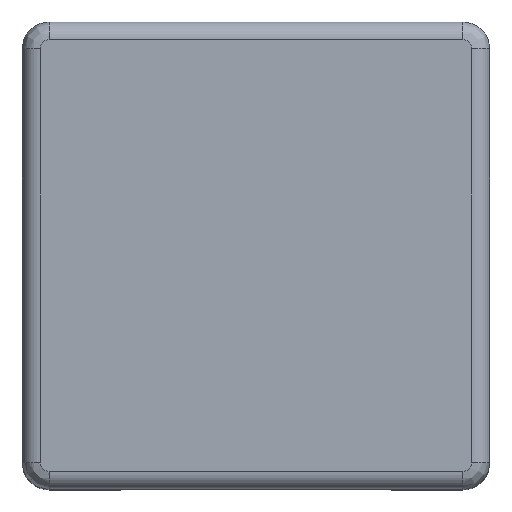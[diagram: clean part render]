
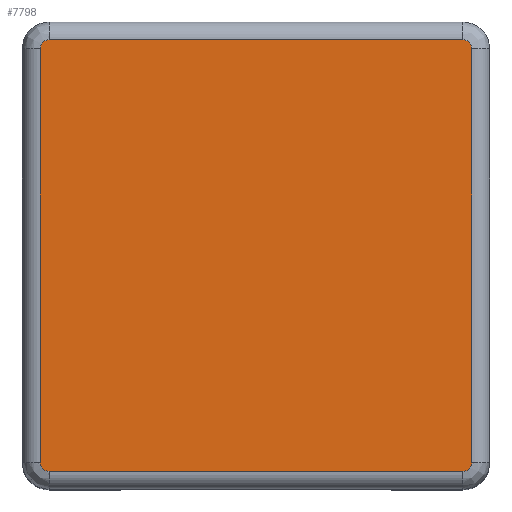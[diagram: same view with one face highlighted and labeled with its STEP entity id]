
A CAD part, top view. The second image highlights one B-rep face of the part: STEP entity #7798.
In plain terms, the highlighted planar face has unit normal (0, 0, 1).
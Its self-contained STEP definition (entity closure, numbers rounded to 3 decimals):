
#7771 = VERTEX_POINT('',#7772);
#7772 = CARTESIAN_POINT('',(-12.1,-11.6,23.7));
#7779 = EDGE_CURVE('',#7780,#7771,#7782,.T.);
#7780 = VERTEX_POINT('',#7781);
#7781 = CARTESIAN_POINT('',(-12.1,11.6,23.7));
#7782 = LINE('',#7783,#7784);
#7783 = CARTESIAN_POINT('',(-12.1,13.1,23.7));
#7784 = VECTOR('',#7785,1.);
#7785 = DIRECTION('',(0.,-1.,0.));
#7798 = ADVANCED_FACE('',(#7799),#7860,.F.);
#7799 = FACE_BOUND('',#7800,.T.);
#7800 = EDGE_LOOP('',(#7801,#7810,#7818,#7827,#7835,#7844,#7852,#7859));
#7801 = ORIENTED_EDGE('',*,*,#7802,.F.);
#7802 = EDGE_CURVE('',#7803,#7771,#7805,.T.);
#7803 = VERTEX_POINT('',#7804);
#7804 = CARTESIAN_POINT('',(-11.6,-12.1,23.7));
#7805 = CIRCLE('',#7806,0.5);
#7806 = AXIS2_PLACEMENT_3D('',#7807,#7808,#7809);
#7807 = CARTESIAN_POINT('',(-11.6,-11.6,23.7));
#7808 = DIRECTION('',(0.,0.,-1.));
#7809 = DIRECTION('',(0.,1.,0.));
#7810 = ORIENTED_EDGE('',*,*,#7811,.T.);
#7811 = EDGE_CURVE('',#7803,#7812,#7814,.T.);
#7812 = VERTEX_POINT('',#7813);
#7813 = CARTESIAN_POINT('',(11.6,-12.1,23.7));
#7814 = LINE('',#7815,#7816);
#7815 = CARTESIAN_POINT('',(-13.1,-12.1,23.7));
#7816 = VECTOR('',#7817,1.);
#7817 = DIRECTION('',(1.,0.,0.));
#7818 = ORIENTED_EDGE('',*,*,#7819,.F.);
#7819 = EDGE_CURVE('',#7820,#7812,#7822,.T.);
#7820 = VERTEX_POINT('',#7821);
#7821 = CARTESIAN_POINT('',(12.1,-11.6,23.7));
#7822 = CIRCLE('',#7823,0.5);
#7823 = AXIS2_PLACEMENT_3D('',#7824,#7825,#7826);
#7824 = CARTESIAN_POINT('',(11.6,-11.6,23.7));
#7825 = DIRECTION('',(0.,0.,-1.));
#7826 = DIRECTION('',(0.,1.,0.));
#7827 = ORIENTED_EDGE('',*,*,#7828,.T.);
#7828 = EDGE_CURVE('',#7820,#7829,#7831,.T.);
#7829 = VERTEX_POINT('',#7830);
#7830 = CARTESIAN_POINT('',(12.1,11.6,23.7));
#7831 = LINE('',#7832,#7833);
#7832 = CARTESIAN_POINT('',(12.1,13.1,23.7));
#7833 = VECTOR('',#7834,1.);
#7834 = DIRECTION('',(0.,1.,0.));
#7835 = ORIENTED_EDGE('',*,*,#7836,.F.);
#7836 = EDGE_CURVE('',#7837,#7829,#7839,.T.);
#7837 = VERTEX_POINT('',#7838);
#7838 = CARTESIAN_POINT('',(11.6,12.1,23.7));
#7839 = CIRCLE('',#7840,0.5);
#7840 = AXIS2_PLACEMENT_3D('',#7841,#7842,#7843);
#7841 = CARTESIAN_POINT('',(11.6,11.6,23.7));
#7842 = DIRECTION('',(0.,0.,-1.));
#7843 = DIRECTION('',(0.,1.,0.));
#7844 = ORIENTED_EDGE('',*,*,#7845,.T.);
#7845 = EDGE_CURVE('',#7837,#7846,#7848,.T.);
#7846 = VERTEX_POINT('',#7847);
#7847 = CARTESIAN_POINT('',(-11.6,12.1,23.7));
#7848 = LINE('',#7849,#7850);
#7849 = CARTESIAN_POINT('',(-13.1,12.1,23.7));
#7850 = VECTOR('',#7851,1.);
#7851 = DIRECTION('',(-1.,0.,0.));
#7852 = ORIENTED_EDGE('',*,*,#7853,.F.);
#7853 = EDGE_CURVE('',#7780,#7846,#7854,.T.);
#7854 = CIRCLE('',#7855,0.5);
#7855 = AXIS2_PLACEMENT_3D('',#7856,#7857,#7858);
#7856 = CARTESIAN_POINT('',(-11.6,11.6,23.7));
#7857 = DIRECTION('',(0.,0.,-1.));
#7858 = DIRECTION('',(0.,1.,0.));
#7859 = ORIENTED_EDGE('',*,*,#7779,.T.);
#7860 = PLANE('',#7861);
#7861 = AXIS2_PLACEMENT_3D('',#7862,#7863,#7864);
#7862 = CARTESIAN_POINT('',(-13.1,13.1,23.7));
#7863 = DIRECTION('',(0.,0.,-1.));
#7864 = DIRECTION('',(0.,-1.,0.));
